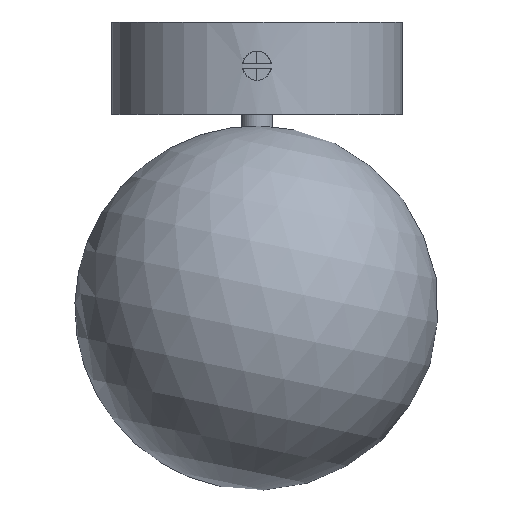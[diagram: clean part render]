
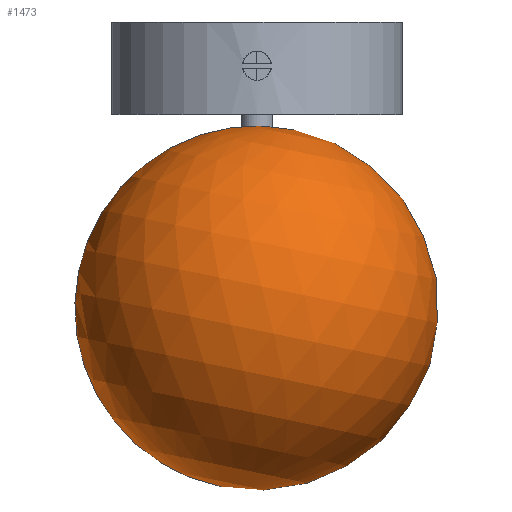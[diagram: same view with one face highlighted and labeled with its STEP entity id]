
A CAD part, top view. The second image highlights one B-rep face of the part: STEP entity #1473.
In plain terms, the highlighted spherical face has radius 75 mm.
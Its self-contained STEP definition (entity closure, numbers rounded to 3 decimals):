
#48=SPHERICAL_SURFACE('',#1628,75.);
#265=FACE_BOUND('',#419,.T.);
#309=FACE_OUTER_BOUND('',#418,.T.);
#418=EDGE_LOOP('',(#1067,#1068));
#419=EDGE_LOOP('',(#1069));
#539=CIRCLE('',#1622,16.5);
#544=CIRCLE('',#1629,75.);
#647=VERTEX_POINT('',#2362);
#652=VERTEX_POINT('',#2375);
#653=VERTEX_POINT('',#2376);
#804=EDGE_CURVE('',#647,#647,#539,.T.);
#810=EDGE_CURVE('',#652,#653,#544,.T.);
#1067=ORIENTED_EDGE('',*,*,#810,.T.);
#1068=ORIENTED_EDGE('',*,*,#810,.F.);
#1069=ORIENTED_EDGE('',*,*,#804,.T.);
#1473=ADVANCED_FACE('',(#309,#265),#48,.T.);
#1622=AXIS2_PLACEMENT_3D('',#2363,#1897,#1898);
#1628=AXIS2_PLACEMENT_3D('',#2374,#1910,#1911);
#1629=AXIS2_PLACEMENT_3D('',#2377,#1912,#1913);
#1897=DIRECTION('center_axis',(0.,0.,
1.));
#1898=DIRECTION('ref_axis',(0.866,0.5,0.));
#1910=DIRECTION('center_axis',(0.203,0.979,0.));
#1911=DIRECTION('ref_axis',(0.979,-0.203,0.));
#1912=DIRECTION('center_axis',(0.,0.,
1.));
#1913=DIRECTION('ref_axis',(-0.979,0.203,0.));
#2362=CARTESIAN_POINT('',(-14.289,-8.25,357.928));
#2363=CARTESIAN_POINT('Origin',(0.,0.,
357.928));
#2374=CARTESIAN_POINT('Origin',(0.,0.,
431.09));
#2375=CARTESIAN_POINT('',(15.196,73.444,431.09));
#2376=CARTESIAN_POINT('',(-15.196,-73.444,431.09));
#2377=CARTESIAN_POINT('Origin',(0.,0.,
431.09));
